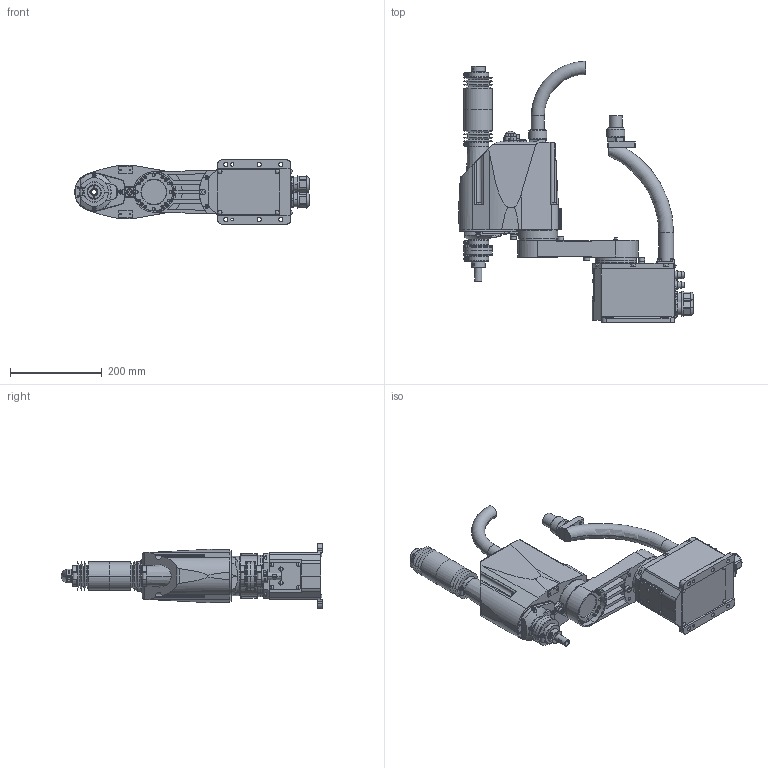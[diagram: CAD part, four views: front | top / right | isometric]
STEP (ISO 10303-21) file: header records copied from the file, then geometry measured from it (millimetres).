
FILE_DESCRIPTION( ( '' ), '1' );
FILE_NAME( '//expscmdclustefs.cadenas.external/client_exchange/iodir/jobs/output/wkb51506172_no0/STEP/G3_301C_2_03.stp', '2012-11-22T13:37:50', ( '' ), ( '' ), ' ', ' ', ' ' );
FILE_SCHEMA( ( 'CONFIG_CONTROL_DESIGN' ) );
Length unit declared in the file: millimetre
Products named in the file (8): 1; 2; 3; 4; 5; 6; 7; 8
Bounding box: 511.5 x 570 x 140 mm (x, y, z)
Volume: 7981241.9 mm3; surface area: 660807.3 mm2
Topology: 8 solids, 8 shells, 2022 faces, 4885 edges, 3112 vertices
Faces by surface type: plane 956, cylinder 689, cone 243, torus 97, sphere 37
Entity records: 61918 total; most frequent: CARTESIAN_POINT 13015, DIRECTION 10655, ORIENTED_EDGE 9694, EDGE_CURVE 4847, AXIS2_PLACEMENT_3D 3984, VERTEX_POINT 3112, LINE 2687, VECTOR 2687
